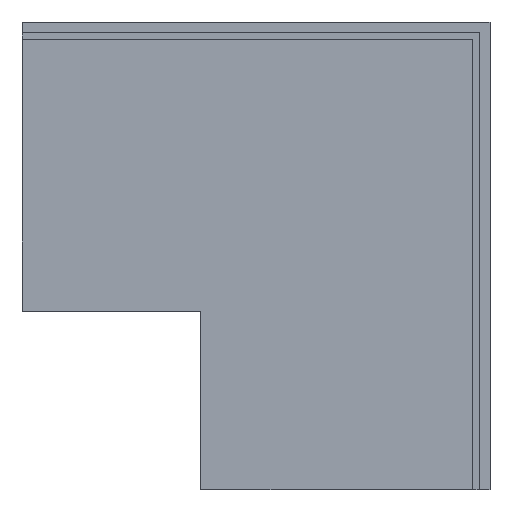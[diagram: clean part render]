
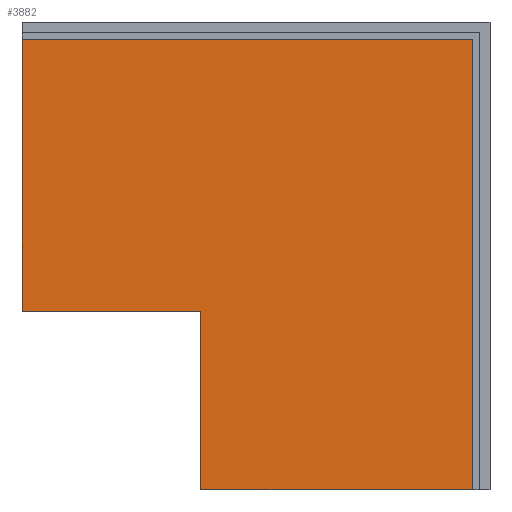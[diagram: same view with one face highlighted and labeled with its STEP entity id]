
A CAD part, front view. The second image highlights one B-rep face of the part: STEP entity #3882.
In plain terms, the highlighted planar face has unit normal (0, -1, 0) as drawn and (0, 1, 0) by its records, which use the part's own axes.
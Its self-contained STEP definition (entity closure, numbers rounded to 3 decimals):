
#88=FACE_OUTER_BOUND('',#292,.T.);
#292=EDGE_LOOP('',(#2546,#2547,#2548,#2549,#2550,#2551));
#508=LINE('',#5355,#1050);
#509=LINE('',#5357,#1051);
#510=LINE('',#5359,#1052);
#511=LINE('',#5361,#1053);
#512=LINE('',#5363,#1054);
#513=LINE('',#5364,#1055);
#1050=VECTOR('',#4336,304.8);
#1051=VECTOR('',#4337,304.8);
#1052=VECTOR('',#4338,304.8);
#1053=VECTOR('',#4339,304.8);
#1054=VECTOR('',#4340,304.8);
#1055=VECTOR('',#4341,304.8);
#1592=VERTEX_POINT('',#5353);
#1593=VERTEX_POINT('',#5354);
#1594=VERTEX_POINT('',#5356);
#1595=VERTEX_POINT('',#5358);
#1596=VERTEX_POINT('',#5360);
#1597=VERTEX_POINT('',#5362);
#1972=EDGE_CURVE('',#1592,#1593,#508,.T.);
#1973=EDGE_CURVE('',#1594,#1592,#509,.T.);
#1974=EDGE_CURVE('',#1595,#1594,#510,.T.);
#1975=EDGE_CURVE('',#1596,#1595,#511,.T.);
#1976=EDGE_CURVE('',#1597,#1596,#512,.T.);
#1977=EDGE_CURVE('',#1593,#1597,#513,.T.);
#2546=ORIENTED_EDGE('',*,*,#1972,.F.);
#2547=ORIENTED_EDGE('',*,*,#1973,.F.);
#2548=ORIENTED_EDGE('',*,*,#1974,.F.);
#2549=ORIENTED_EDGE('',*,*,#1975,.F.);
#2550=ORIENTED_EDGE('',*,*,#1976,.F.);
#2551=ORIENTED_EDGE('',*,*,#1977,.F.);
#3694=PLANE('',#4093);
#3882=ADVANCED_FACE('',(#88),#3694,.T.);
#4093=AXIS2_PLACEMENT_3D('',#5352,#4334,#4335);
#4334=DIRECTION('center_axis',(0.,1.,0.));
#4335=DIRECTION('ref_axis',(0.,0.,-1.));
#4336=DIRECTION('',(1.,0.,0.));
#4337=DIRECTION('',(0.,0.,-1.));
#4338=DIRECTION('',(-1.,0.,0.));
#4339=DIRECTION('',(0.,0.,1.));
#4340=DIRECTION('',(1.,0.,0.));
#4341=DIRECTION('',(0.,0.,1.));
#5352=CARTESIAN_POINT('Origin',(76.,19.7,199.));
#5353=CARTESIAN_POINT('',(4.6,19.7,-47.));
#5354=CARTESIAN_POINT('',(76.,19.7,-47.));
#5355=CARTESIAN_POINT('',(4.6,19.7,-47.));
#5356=CARTESIAN_POINT('',(4.6,19.7,71.4));
#5357=CARTESIAN_POINT('',(4.6,19.7,71.4));
#5358=CARTESIAN_POINT('',(123.,19.7,71.4));
#5359=CARTESIAN_POINT('',(123.,19.7,71.4));
#5360=CARTESIAN_POINT('',(123.,19.7,0.));
#5361=CARTESIAN_POINT('',(123.,19.7,0.));
#5362=CARTESIAN_POINT('',(76.,19.7,0.));
#5363=CARTESIAN_POINT('',(76.,19.7,0.));
#5364=CARTESIAN_POINT('',(76.,19.7,-47.));
